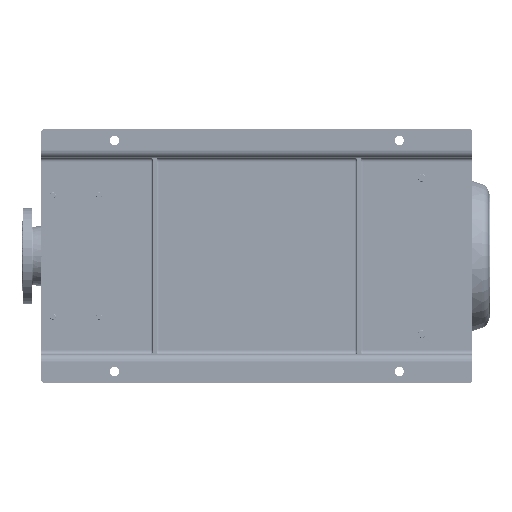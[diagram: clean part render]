
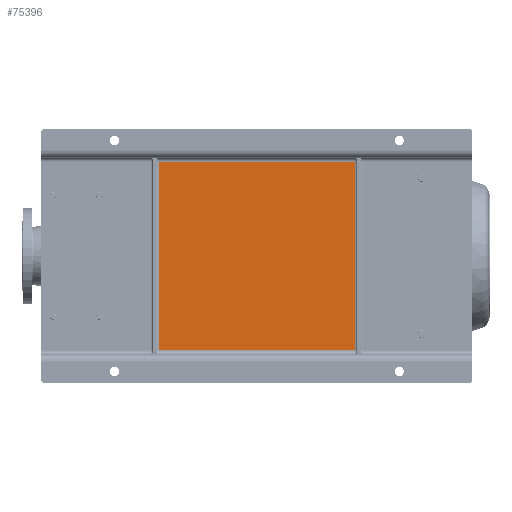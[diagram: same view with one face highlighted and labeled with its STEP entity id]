
A CAD part, front view. The second image highlights one B-rep face of the part: STEP entity #75396.
In plain terms, the highlighted planar face has unit normal (0, -1, 0).
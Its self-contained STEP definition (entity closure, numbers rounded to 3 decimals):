
#77 = VERTEX_POINT ( 'NONE', #160691 ) ;
#9693 = VECTOR ( 'NONE', #153522, 1000. ) ;
#9794 = CARTESIAN_POINT ( 'NONE',  ( 85., 65., -815. ) ) ;
#15435 = VECTOR ( 'NONE', #130255, 1000. ) ;
#15565 = VERTEX_POINT ( 'NONE', #73899 ) ;
#22031 = VERTEX_POINT ( 'NONE', #36857 ) ;
#31631 = CARTESIAN_POINT ( 'NONE',  ( 75., 65., -815. ) ) ;
#31870 = CARTESIAN_POINT ( 'NONE',  ( 75., 65., -1120. ) ) ;
#32776 = PLANE ( 'NONE',  #92194 ) ;
#33356 = EDGE_LOOP ( 'NONE', ( #46099, #120212, #47646, #86155 ) ) ;
#36857 = CARTESIAN_POINT ( 'NONE',  ( 85., 65., -305. ) ) ;
#37552 = EDGE_CURVE ( 'NONE', #56251, #77, #139805, .T. ) ;
#46099 = ORIENTED_EDGE ( 'NONE', *, *, #176321, .T. ) ;
#47646 = ORIENTED_EDGE ( 'NONE', *, *, #50547, .T. ) ;
#50547 = EDGE_CURVE ( 'NONE', #77, #15565, #59095, .T. ) ;
#56246 = FACE_OUTER_BOUND ( 'NONE', #33356, .T. ) ;
#56251 = VERTEX_POINT ( 'NONE', #9794 ) ;
#59095 = LINE ( 'NONE', #88754, #168128 ) ;
#59974 = DIRECTION ( 'NONE',  ( 0., 0., 1. ) ) ;
#73899 = CARTESIAN_POINT ( 'NONE',  ( 575., 65., -305. ) ) ;
#74201 = DIRECTION ( 'NONE',  ( 0., 0., -1. ) ) ;
#75396 = ADVANCED_FACE ( 'NONE', ( #56246 ), #32776, .T. ) ;
#77033 = CARTESIAN_POINT ( 'NONE',  ( 85., 65., -820. ) ) ;
#86155 = ORIENTED_EDGE ( 'NONE', *, *, #175864, .T. ) ;
#88754 = CARTESIAN_POINT ( 'NONE',  ( 575., 65., -300. ) ) ;
#92194 = AXIS2_PLACEMENT_3D ( 'NONE', #31870, #153586, #74201 ) ;
#100983 = DIRECTION ( 'NONE',  ( 1., 0., 0. ) ) ;
#101149 = LINE ( 'NONE', #167969, #9693 ) ;
#102278 = LINE ( 'NONE', #77033, #15435 ) ;
#120212 = ORIENTED_EDGE ( 'NONE', *, *, #37552, .T. ) ;
#130255 = DIRECTION ( 'NONE',  ( 0., 0., -1. ) ) ;
#139805 = LINE ( 'NONE', #31631, #177305 ) ;
#153522 = DIRECTION ( 'NONE',  ( -1., 0., 0. ) ) ;
#153586 = DIRECTION ( 'NONE',  ( 0., -1., 0. ) ) ;
#160691 = CARTESIAN_POINT ( 'NONE',  ( 575., 65., -815. ) ) ;
#167969 = CARTESIAN_POINT ( 'NONE',  ( 75., 65., -305. ) ) ;
#168128 = VECTOR ( 'NONE', #59974, 1000. ) ;
#175864 = EDGE_CURVE ( 'NONE', #15565, #22031, #101149, .T. ) ;
#176321 = EDGE_CURVE ( 'NONE', #22031, #56251, #102278, .T. ) ;
#177305 = VECTOR ( 'NONE', #100983, 1000. ) ;
